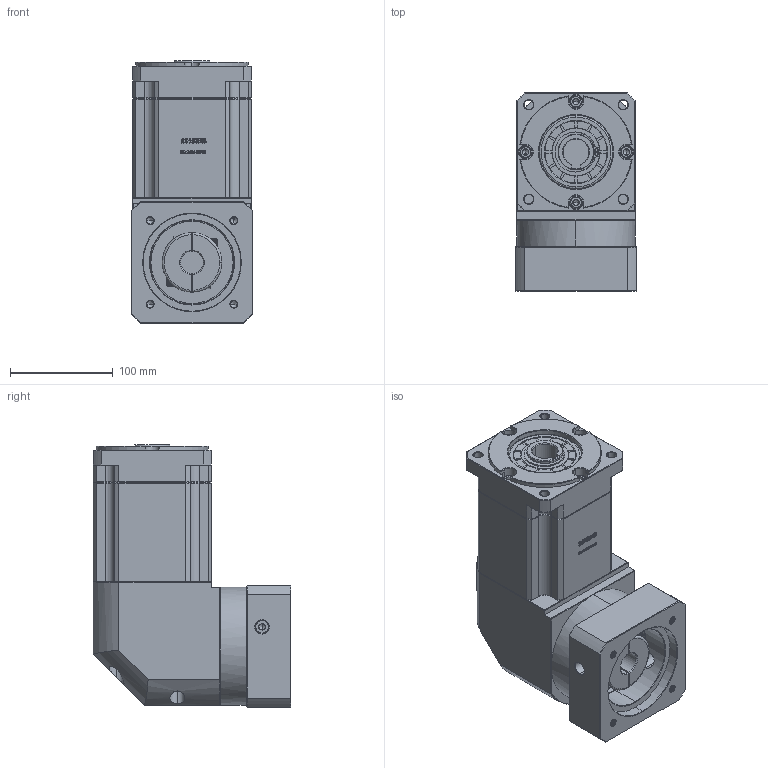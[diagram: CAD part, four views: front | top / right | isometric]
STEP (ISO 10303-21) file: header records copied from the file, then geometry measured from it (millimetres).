
FILE_DESCRIPTION (( 'STEP AP214' ), '1' );
FILE_NAME ('ZBR115A-K25-L3-22-95-115-M8.step', '2023-03-03T05:09:02', ( '' ), ( 'Microsoft' ), 'SwSTEP 2.0', 'SolidWorks 2016', '' );
FILE_SCHEMA (( 'AUTOMOTIVE_DESIGN' ));
Length unit declared in the file: millimetre
Products named in the file (1): ZBR115A-K25-L3-22-95-115-M8
Bounding box: 118 x 192.4 x 255 mm (x, y, z)
Volume: 3574272.9 mm3; surface area: 268905.4 mm2
Topology: 6 solids, 6 shells, 2927 faces, 7770 edges, 4989 vertices
Faces by surface type: plane 1552, bspline 598, cylinder 406, cone 363, torus 8
Entity records: 156432 total; most frequent: CARTESIAN_POINT 56178, ORIENTED_EDGE 15484, DIRECTION 11754, EDGE_CURVE 7742, VECTOR 5254, LINE 5254, VERTEX_POINT 4989, AXIS2_PLACEMENT_3D 3250
